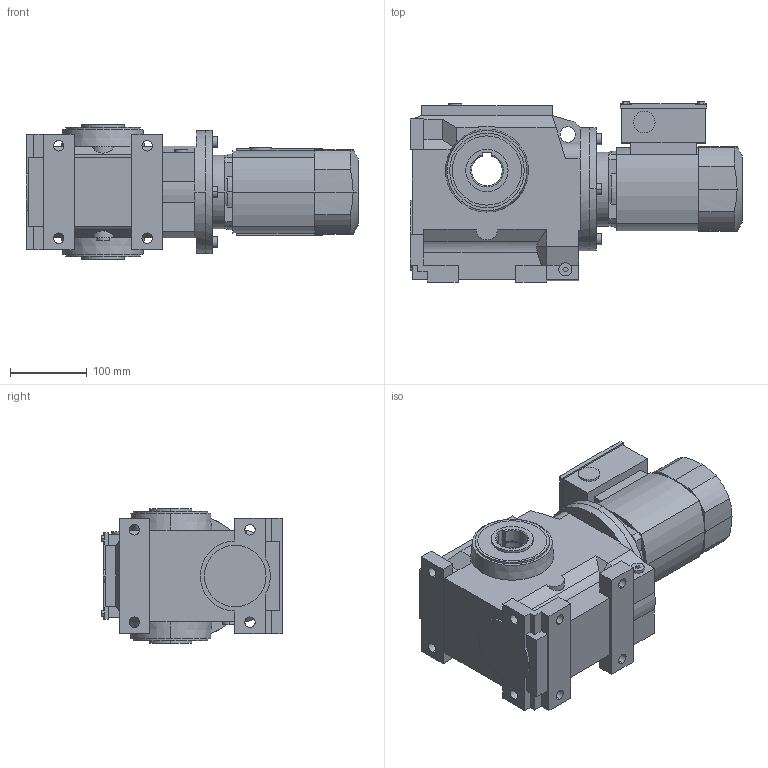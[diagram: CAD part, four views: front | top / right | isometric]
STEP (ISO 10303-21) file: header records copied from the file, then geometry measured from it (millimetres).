
FILE_DESCRIPTION(('STEP AP214'),'1');
FILE_NAME('STEP-File.stp','2018-01-01T00:00:00',(' '),('KEB'),' ','KEB-DRIVE',' ');
FILE_SCHEMA(('AUTOMOTIVE_DESIGN { 1 0 10303 214 1 1 1 1 }'));
Length unit declared in the file: millimetre
Products named in the file (10): s3a; wd_hw_40; wdh_slno; cj3; dm63_kkn; kk08; PLUG_M25; ndm63; S32A DM63G4§CAD13
Assembly tree (9 placements, depth 2):
  S32A DM63G4§CAD13
    s3a
    wd_hw_40
    wdh_slno
    wdh_slno
    cj3
    dm63_kkn
    kk08
    PLUG_M25
    ndm63
Bounding box: 431.5 x 234.5 x 175 mm (x, y, z)
Volume: 8667106.2 mm3; surface area: 574498.4 mm2
Topology: 9 solids, 9 shells, 416 faces, 1122 edges, 794 vertices
Faces by surface type: plane 259, cylinder 105, cone 50, torus 2
Entity records: 14619 total; most frequent: CARTESIAN_POINT 4331, ORIENTED_EDGE 2244, DIRECTION 1756, EDGE_CURVE 1122, VERTEX_POINT 794, VECTOR 750, LINE 750, EDGE_LOOP 512
